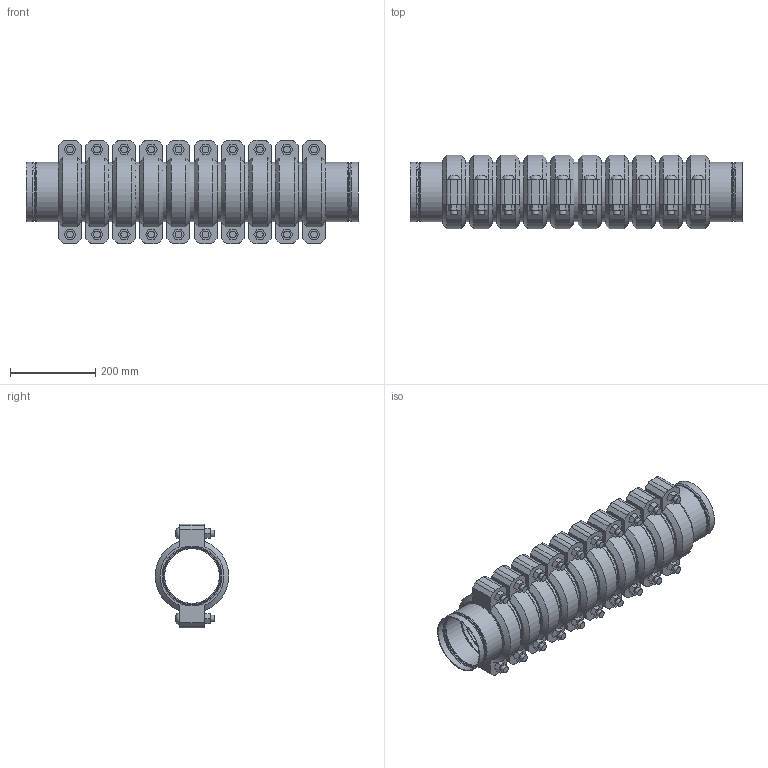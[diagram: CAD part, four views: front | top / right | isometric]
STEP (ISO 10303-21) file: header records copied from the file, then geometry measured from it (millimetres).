
FILE_DESCRIPTION(/* description */ ('VIC STRENGTHIN 100 EXPANSION JOINT 10 COUPLINGS NEUTRAL STYLE E155 (ST1)','CAx-IF Rec.Pracs.---Representation and Presentation of Product Manufacturing Information (PMI)---4.0---2014-10-13'),/* implementation_level */ '2;1');
FILE_NAME(/* name */ 'C:\Users\Vjadhav\AppData\Roaming\Autodesk\ApplicationPlugins\Victaulic.Temp\A165\Victaulic_SS-StrengThin 100_Expansion Joint_Neutral_10 Couplings_Style E155 (ST1)_10 Coup_Neut_05.0 (139.7) (125).stp',/* time_stamp */ '2021-07-20T17:39:57+05:00',/* author */ ('kkamble'),/* organization */ ('Victaulic'),/* preprocessor_version */ 'ST-DEVELOPER v17.2',/* originating_system */ 'Autodesk Inventor 2019',/* authorisation */ '');
FILE_SCHEMA (('AP242_MANAGED_MODEL_BASED_3D_ENGINEERING_MIM_LF { 1 0 10303 442 1 1 4 }'));
Length unit declared in the file: inch
Products named in the file (4): E155-05.0 (139.7); E494G-05.0 (139.7); Nipple-05.0 (139.7); 075-05.0 (139.7)
Assembly tree (21 placements, depth 2):
  E155-05.0 (139.7)
    E494G-05.0 (139.7)  x2
    Nipple-05.0 (139.7)  x9
    075-05.0 (139.7)  x10
Bounding box: 778.26 x 172.14 x 243.59 mm (x, y, z)
Volume: 7689298.2 mm3; surface area: 1702774.6 mm2
Topology: 21 solids, 41 shells, 746 faces, 1822 edges, 1282 vertices
Faces by surface type: plane 426, cylinder 224, cone 44, torus 32, bspline 20
Full cylindrical faces by diameter (mm): 15.875 x40, 17.424 x20, 128.194 x9, 130.505 x2, 131.47 x2, 133.35 x10, 134.518 x2, 135.484 x20, 135.687 x6, 139.7 x53
Entity records: 3830 total; most frequent: DIRECTION 685, CARTESIAN_POINT 667, ORIENTED_EDGE 548, AXIS2_PLACEMENT_3D 293, EDGE_CURVE 274, VERTEX_POINT 197, CIRCLE 167, EDGE_LOOP 129
